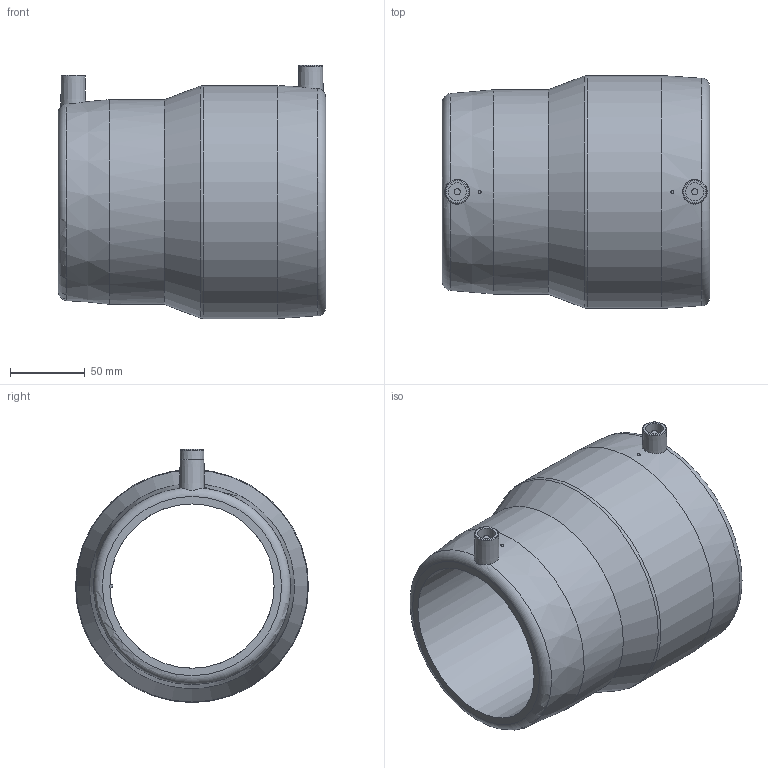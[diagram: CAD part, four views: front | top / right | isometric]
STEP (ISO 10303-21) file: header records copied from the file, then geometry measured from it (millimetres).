
FILE_DESCRIPTION(/* description */ ('Unknown'),/* implementation_level */ '2;1');
FILE_NAME(/* name */ 'REP125110C',/* time_stamp */ '2021-05-24T12:30:21+02:00',/* author */ ('Unknown'),/* organization */ ('Unknown'),/* preprocessor_version */ 'ST-DEVELOPER v16.7',/* originating_system */ 'Solid Edge',/* authorisation */ 'Unknown');
FILE_SCHEMA (('AUTOMOTIVE_DESIGN {1 0 10303 214 3 1 1}'));
Length unit declared in the file: millimetre
Products named in the file (1): REP125110C
Bounding box: 179 x 156 x 169.5 mm (x, y, z)
Volume: 1073432.2 mm3; surface area: 160637.2 mm2
Topology: 1 solids, 1 shells, 36 faces, 79 edges, 50 vertices
Faces by surface type: plane 15, cylinder 10, cone 6, torus 5
Full cylindrical faces by diameter (mm): 2 x2, 4 x2, 12 x2, 110 x1, 125 x1, 137 x1, 156 x1
Entity records: 850 total; most frequent: CARTESIAN_POINT 178, DIRECTION 142, ORIENTED_EDGE 90, AXIS2_PLACEMENT_3D 66, EDGE_LOOP 65, FACE_BOUND 65, EDGE_CURVE 45, VERTEX_POINT 38
